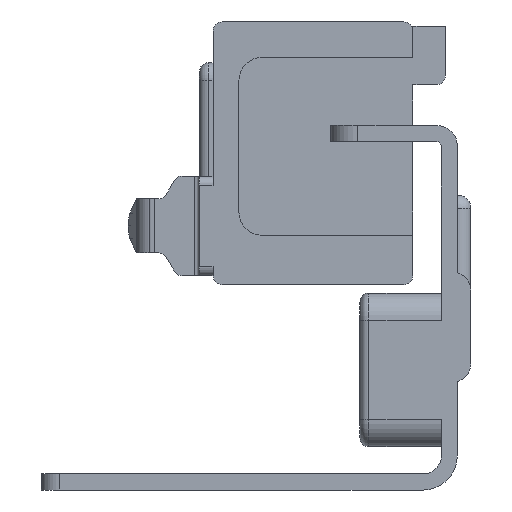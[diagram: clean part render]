
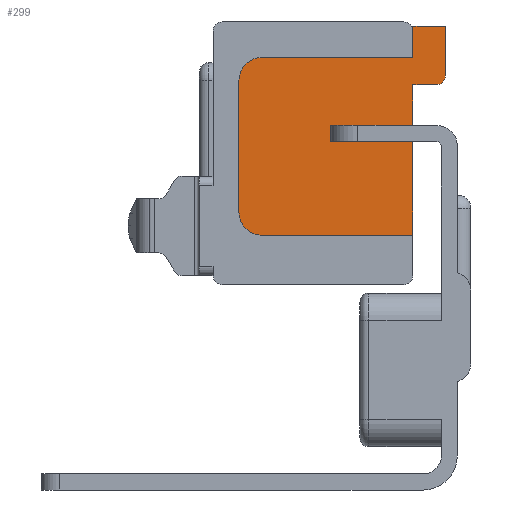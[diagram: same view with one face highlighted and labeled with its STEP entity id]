
A CAD part, left-side view. The second image highlights one B-rep face of the part: STEP entity #299.
In plain terms, the highlighted planar face has unit normal (-1, 0, 0).
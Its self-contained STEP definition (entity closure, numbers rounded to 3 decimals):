
#120 = PLANE ( 'NONE',  #2121 ) ;
#125 = VERTEX_POINT ( 'NONE', #6524 ) ;
#127 = VERTEX_POINT ( 'NONE', #4717 ) ;
#144 = VECTOR ( 'NONE', #4214, 1000. ) ;
#175 = VECTOR ( 'NONE', #5877, 1000. ) ;
#176 = LINE ( 'NONE', #1111, #2484 ) ;
#208 = ORIENTED_EDGE ( 'NONE', *, *, #873, .T. ) ;
#299 = ADVANCED_FACE ( 'NONE', ( #1834 ), #120, .F. ) ;
#345 = EDGE_CURVE ( 'NONE', #4895, #5566, #3286, .T. ) ;
#409 = VECTOR ( 'NONE', #898, 1000. ) ;
#460 = CARTESIAN_POINT ( 'NONE',  ( 15.7, 4.9, 73.625 ) ) ;
#534 = CARTESIAN_POINT ( 'NONE',  ( 15.7, 4.9, 77.06 ) ) ;
#609 = ORIENTED_EDGE ( 'NONE', *, *, #3317, .T. ) ;
#649 = CIRCLE ( 'NONE', #1951, 2.5 ) ;
#665 = CARTESIAN_POINT ( 'NONE',  ( 15.7, 21.53, 73.625 ) ) ;
#695 = EDGE_LOOP ( 'NONE', ( #2949, #2256, #1685, #1276, #609, #208, #6662, #6494, #5849, #5275, #4777, #4351, #4255, #4011, #3830 ) ) ;
#706 = VECTOR ( 'NONE', #6017, 1000. ) ;
#722 = LINE ( 'NONE', #5577, #2130 ) ;
#800 = VERTEX_POINT ( 'NONE', #980 ) ;
#873 = EDGE_CURVE ( 'NONE', #800, #4930, #2995, .T. ) ;
#898 = DIRECTION ( 'NONE',  ( 0., -1., 0. ) ) ;
#974 = DIRECTION ( 'NONE',  ( 1., 0., 0. ) ) ;
#980 = CARTESIAN_POINT ( 'NONE',  ( 15.7, 1.33, 88.025 ) ) ;
#999 = DIRECTION ( 'NONE',  ( 0., 0., 1. ) ) ;
#1023 = VERTEX_POINT ( 'NONE', #4984 ) ;
#1025 = LINE ( 'NONE', #6438, #2447 ) ;
#1054 = CARTESIAN_POINT ( 'NONE',  ( 15.7, 2.33, 82.555 ) ) ;
#1111 = CARTESIAN_POINT ( 'NONE',  ( 15.7, 12.42, 77.06 ) ) ;
#1267 = EDGE_CURVE ( 'NONE', #127, #125, #649, .T. ) ;
#1276 = ORIENTED_EDGE ( 'NONE', *, *, #6436, .F. ) ;
#1413 = DIRECTION ( 'NONE',  ( 0., -1., 0. ) ) ;
#1505 = DIRECTION ( 'NONE',  ( 0., 1., 0. ) ) ;
#1589 = DIRECTION ( 'NONE',  ( 0., 0., 1. ) ) ;
#1608 = CARTESIAN_POINT ( 'NONE',  ( 15.7, 1.33, 82.555 ) ) ;
#1661 = EDGE_CURVE ( 'NONE', #4224, #1023, #5276, .T. ) ;
#1685 = ORIENTED_EDGE ( 'NONE', *, *, #3640, .T. ) ;
#1692 = VERTEX_POINT ( 'NONE', #2019 ) ;
#1807 = LINE ( 'NONE', #4133, #409 ) ;
#1834 = FACE_OUTER_BOUND ( 'NONE', #695, .T. ) ;
#1859 = VERTEX_POINT ( 'NONE', #6481 ) ;
#1943 = LINE ( 'NONE', #2239, #706 ) ;
#1945 = CARTESIAN_POINT ( 'NONE',  ( 15.7, 20.06, 81.555 ) ) ;
#1951 = AXIS2_PLACEMENT_3D ( 'NONE', #3667, #3410, #3385 ) ;
#1973 = AXIS2_PLACEMENT_3D ( 'NONE', #1054, #4844, #1589 ) ;
#2019 = CARTESIAN_POINT ( 'NONE',  ( 15.7, 4.9, 64.925 ) ) ;
#2091 = VERTEX_POINT ( 'NONE', #5483 ) ;
#2121 = AXIS2_PLACEMENT_3D ( 'NONE', #665, #974, #999 ) ;
#2130 = VECTOR ( 'NONE', #6634, 1000. ) ;
#2136 = DIRECTION ( 'NONE',  ( 0., 0., -1. ) ) ;
#2239 = CARTESIAN_POINT ( 'NONE',  ( 15.7, 4.9, 88.025 ) ) ;
#2256 = ORIENTED_EDGE ( 'NONE', *, *, #5662, .T. ) ;
#2270 = DIRECTION ( 'NONE',  ( 0., -1., 0. ) ) ;
#2442 = CARTESIAN_POINT ( 'NONE',  ( 15.7, 14., 75.29 ) ) ;
#2447 = VECTOR ( 'NONE', #2136, 1000. ) ;
#2463 = DIRECTION ( 'NONE',  ( 0., 0., 1. ) ) ;
#2484 = VECTOR ( 'NONE', #1505, 1000. ) ;
#2514 = DIRECTION ( 'NONE',  ( -1., 0., 0. ) ) ;
#2535 = DIRECTION ( 'NONE',  ( 0., 0., 1. ) ) ;
#2560 = CARTESIAN_POINT ( 'NONE',  ( 15.7, 21.63, 82.055 ) ) ;
#2570 = VECTOR ( 'NONE', #2535, 1000. ) ;
#2708 = EDGE_CURVE ( 'NONE', #4895, #5401, #6833, .T. ) ;
#2879 = LINE ( 'NONE', #5929, #3047 ) ;
#2949 = ORIENTED_EDGE ( 'NONE', *, *, #3545, .F. ) ;
#2995 = LINE ( 'NONE', #4560, #175 ) ;
#3047 = VECTOR ( 'NONE', #3259, 1000. ) ;
#3147 = CARTESIAN_POINT ( 'NONE',  ( 15.7, 14., 77.06 ) ) ;
#3206 = AXIS2_PLACEMENT_3D ( 'NONE', #2560, #2514, #2463 ) ;
#3257 = VECTOR ( 'NONE', #1413, 1000. ) ;
#3259 = DIRECTION ( 'NONE',  ( 0., 0., 1. ) ) ;
#3286 = LINE ( 'NONE', #4237, #4216 ) ;
#3314 = LINE ( 'NONE', #460, #144 ) ;
#3317 = EDGE_CURVE ( 'NONE', #5539, #800, #6672, .T. ) ;
#3385 = DIRECTION ( 'NONE',  ( 0., 0., 1. ) ) ;
#3410 = DIRECTION ( 'NONE',  ( -1., 0., 0. ) ) ;
#3545 = EDGE_CURVE ( 'NONE', #6208, #5401, #176, .T. ) ;
#3640 = EDGE_CURVE ( 'NONE', #1859, #2091, #6596, .T. ) ;
#3657 = EDGE_CURVE ( 'NONE', #125, #1692, #1807, .T. ) ;
#3667 = CARTESIAN_POINT ( 'NONE',  ( 15.7, 21.63, 67.425 ) ) ;
#3797 = CARTESIAN_POINT ( 'NONE',  ( 15.7, 4.9, 84.555 ) ) ;
#3830 = ORIENTED_EDGE ( 'NONE', *, *, #2708, .T. ) ;
#3886 = VERTEX_POINT ( 'NONE', #3797 ) ;
#4006 = CARTESIAN_POINT ( 'NONE',  ( 15.7, 14., 75.29 ) ) ;
#4011 = ORIENTED_EDGE ( 'NONE', *, *, #345, .F. ) ;
#4110 = EDGE_CURVE ( 'NONE', #3886, #4224, #722, .T. ) ;
#4133 = CARTESIAN_POINT ( 'NONE',  ( 15.7, 21.53, 64.925 ) ) ;
#4214 = DIRECTION ( 'NONE',  ( 0., 0., -1. ) ) ;
#4216 = VECTOR ( 'NONE', #2270, 1000. ) ;
#4224 = VERTEX_POINT ( 'NONE', #5268 ) ;
#4237 = CARTESIAN_POINT ( 'NONE',  ( 15.7, 12.15, 75.29 ) ) ;
#4255 = ORIENTED_EDGE ( 'NONE', *, *, #5399, .F. ) ;
#4351 = ORIENTED_EDGE ( 'NONE', *, *, #3657, .T. ) ;
#4363 = CARTESIAN_POINT ( 'NONE',  ( 15.7, 4.9, 75.29 ) ) ;
#4506 = CARTESIAN_POINT ( 'NONE',  ( 15.7, 1.33, 81.555 ) ) ;
#4560 = CARTESIAN_POINT ( 'NONE',  ( 15.7, 1.33, 88.025 ) ) ;
#4578 = CARTESIAN_POINT ( 'NONE',  ( 15.7, 4.9, 88.025 ) ) ;
#4717 = CARTESIAN_POINT ( 'NONE',  ( 15.7, 24.13, 67.425 ) ) ;
#4777 = ORIENTED_EDGE ( 'NONE', *, *, #1267, .T. ) ;
#4844 = DIRECTION ( 'NONE',  ( 1., 0., 0. ) ) ;
#4895 = VERTEX_POINT ( 'NONE', #4006 ) ;
#4930 = VERTEX_POINT ( 'NONE', #4578 ) ;
#4984 = CARTESIAN_POINT ( 'NONE',  ( 15.7, 24.13, 82.055 ) ) ;
#5091 = EDGE_CURVE ( 'NONE', #3886, #4930, #1943, .T. ) ;
#5096 = DIRECTION ( 'NONE',  ( 0., 0., 1. ) ) ;
#5268 = CARTESIAN_POINT ( 'NONE',  ( 15.7, 21.63, 84.555 ) ) ;
#5275 = ORIENTED_EDGE ( 'NONE', *, *, #5531, .T. ) ;
#5276 = CIRCLE ( 'NONE', #3206, 2.5 ) ;
#5296 = VECTOR ( 'NONE', #5096, 1000. ) ;
#5399 = EDGE_CURVE ( 'NONE', #5566, #1692, #3314, .T. ) ;
#5401 = VERTEX_POINT ( 'NONE', #3147 ) ;
#5429 = CIRCLE ( 'NONE', #1973, 1. ) ;
#5483 = CARTESIAN_POINT ( 'NONE',  ( 15.7, 2.33, 81.555 ) ) ;
#5531 = EDGE_CURVE ( 'NONE', #1023, #127, #1025, .T. ) ;
#5539 = VERTEX_POINT ( 'NONE', #1608 ) ;
#5566 = VERTEX_POINT ( 'NONE', #4363 ) ;
#5577 = CARTESIAN_POINT ( 'NONE',  ( 15.7, 4.9, 84.555 ) ) ;
#5662 = EDGE_CURVE ( 'NONE', #6208, #1859, #2879, .T. ) ;
#5849 = ORIENTED_EDGE ( 'NONE', *, *, #1661, .T. ) ;
#5877 = DIRECTION ( 'NONE',  ( 0., 1., 0. ) ) ;
#5929 = CARTESIAN_POINT ( 'NONE',  ( 15.7, 4.9, 64.925 ) ) ;
#6017 = DIRECTION ( 'NONE',  ( 0., 0., 1. ) ) ;
#6208 = VERTEX_POINT ( 'NONE', #534 ) ;
#6436 = EDGE_CURVE ( 'NONE', #5539, #2091, #5429, .T. ) ;
#6438 = CARTESIAN_POINT ( 'NONE',  ( 15.7, 24.13, 67.425 ) ) ;
#6481 = CARTESIAN_POINT ( 'NONE',  ( 15.7, 4.9, 81.555 ) ) ;
#6494 = ORIENTED_EDGE ( 'NONE', *, *, #4110, .T. ) ;
#6524 = CARTESIAN_POINT ( 'NONE',  ( 15.7, 21.63, 64.925 ) ) ;
#6596 = LINE ( 'NONE', #1945, #3257 ) ;
#6634 = DIRECTION ( 'NONE',  ( 0., 1., 0. ) ) ;
#6662 = ORIENTED_EDGE ( 'NONE', *, *, #5091, .F. ) ;
#6672 = LINE ( 'NONE', #4506, #5296 ) ;
#6833 = LINE ( 'NONE', #2442, #2570 ) ;
